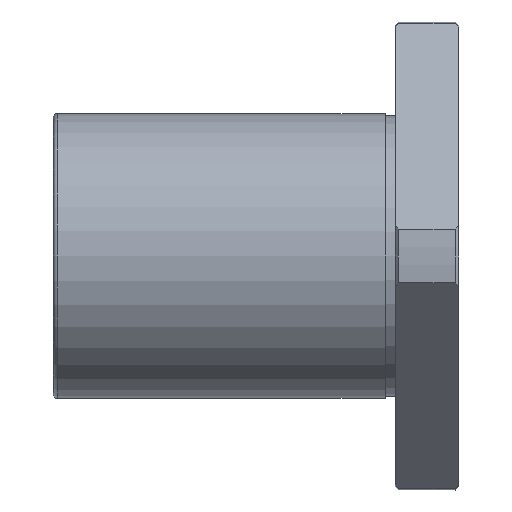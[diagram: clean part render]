
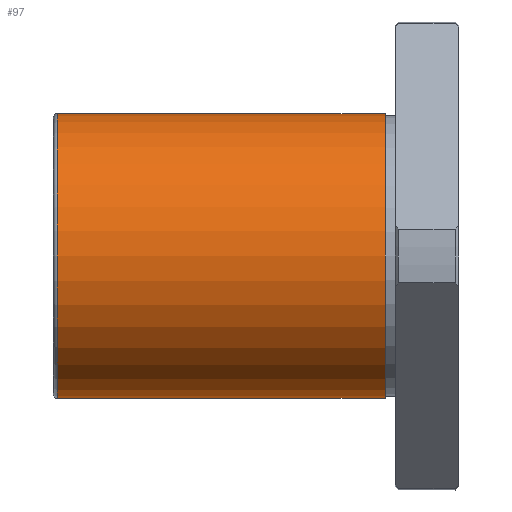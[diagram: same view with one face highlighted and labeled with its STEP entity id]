
A CAD part, front view. The second image highlights one B-rep face of the part: STEP entity #97.
In plain terms, the highlighted cylindrical face has radius 22.5 mm (diameter 45 mm), a full revolution.
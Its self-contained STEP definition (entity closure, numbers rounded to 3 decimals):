
#97=ADVANCED_FACE('',(#172,#173),#174,.T.);
#172=FACE_OUTER_BOUND('',#272,.T.);
#173=FACE_OUTER_BOUND('',#273,.T.);
#174=CYLINDRICAL_SURFACE('',#274,22.5);
#272=EDGE_LOOP('',(#465));
#273=EDGE_LOOP('',(#466));
#274=AXIS2_PLACEMENT_3D('',#467,#468,#469);
#465=ORIENTED_EDGE('',*,*,#613,.F.);
#466=ORIENTED_EDGE('',*,*,#624,.T.);
#467=CARTESIAN_POINT('',(-37.5,0.0,0.));
#468=DIRECTION('',(-1.0,-0.0,0.));
#469=DIRECTION('',(0.0,1.0,0.0));
#613=EDGE_CURVE('',#726,#726,#727,.T.);
#624=EDGE_CURVE('',#746,#746,#747,.T.);
#726=VERTEX_POINT('',#974);
#727=CIRCLE('',#975,22.5);
#746=VERTEX_POINT('',#1013);
#747=CIRCLE('',#1014,22.5);
#974=CARTESIAN_POINT('',(-63.4,22.5,0.));
#975=AXIS2_PLACEMENT_3D('',#1134,#1135,#1136);
#1013=CARTESIAN_POINT('',(-11.6,22.5,0.));
#1014=AXIS2_PLACEMENT_3D('',#1159,#1160,#1161);
#1134=CARTESIAN_POINT('',(-63.4,0.0,0.));
#1135=DIRECTION('',(-1.0,0.0,0.));
#1136=DIRECTION('',(0.0,1.0,0.0));
#1159=CARTESIAN_POINT('',(-11.6,0.0,0.));
#1160=DIRECTION('',(-1.0,0.0,0.));
#1161=DIRECTION('',(0.0,1.0,0.0));
